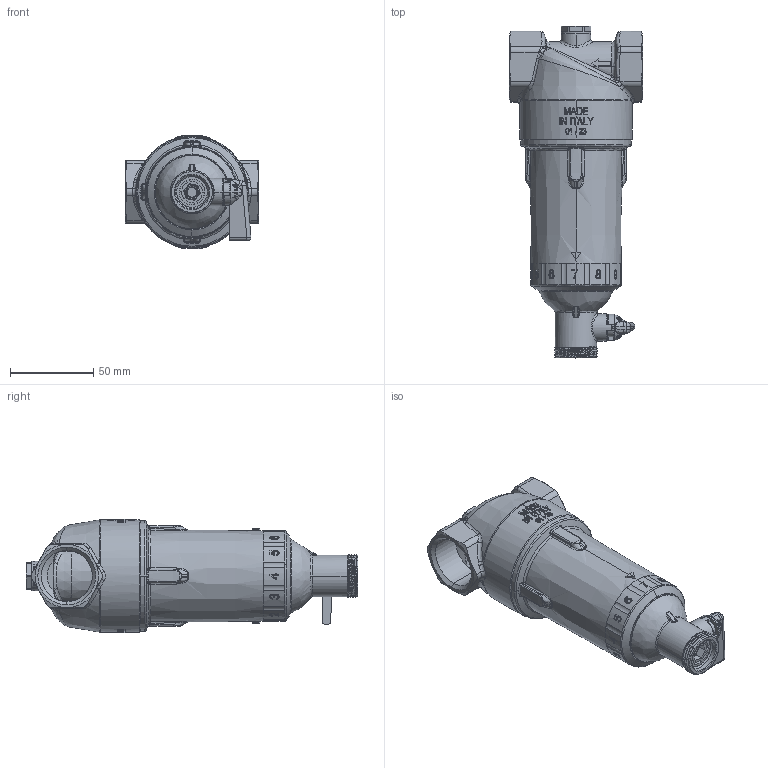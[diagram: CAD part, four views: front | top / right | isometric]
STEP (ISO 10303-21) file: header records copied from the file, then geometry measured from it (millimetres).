
FILE_DESCRIPTION (( 'STEP AP214' ), '1' );
FILE_NAME ('AWF130_filtr_do_wody_4213000_0_3D_AFRISO.STEP', '2024-06-27T07:10:17', ( '' ), ( '' ), 'SwSTEP 2.0', 'SolidWorks 2022', '' );
FILE_SCHEMA (( 'AUTOMOTIVE_DESIGN' ));
Length unit declared in the file: millimetre
Products named in the file (1): AWF130_filtr_do_wody_4213000_0_3D_AFRISO
Bounding box: 80 x 199.5 x 68.5 mm (x, y, z)
Volume: 209831.7 mm3; surface area: 105663 mm2
Topology: 3 solids, 4 shells, 4631 faces, 11461 edges, 7444 vertices
Faces by surface type: plane 2845, cylinder 983, bspline 689, cone 114
Entity records: 246084 total; most frequent: CARTESIAN_POINT 102366, ORIENTED_EDGE 22846, DIRECTION 12898, EDGE_CURVE 11423, VERTEX_POINT 7444, B_SPLINE_CURVE_WITH_KNOTS 6985, EDGE_LOOP 5289, AXIS2_PLACEMENT_3D 4641
